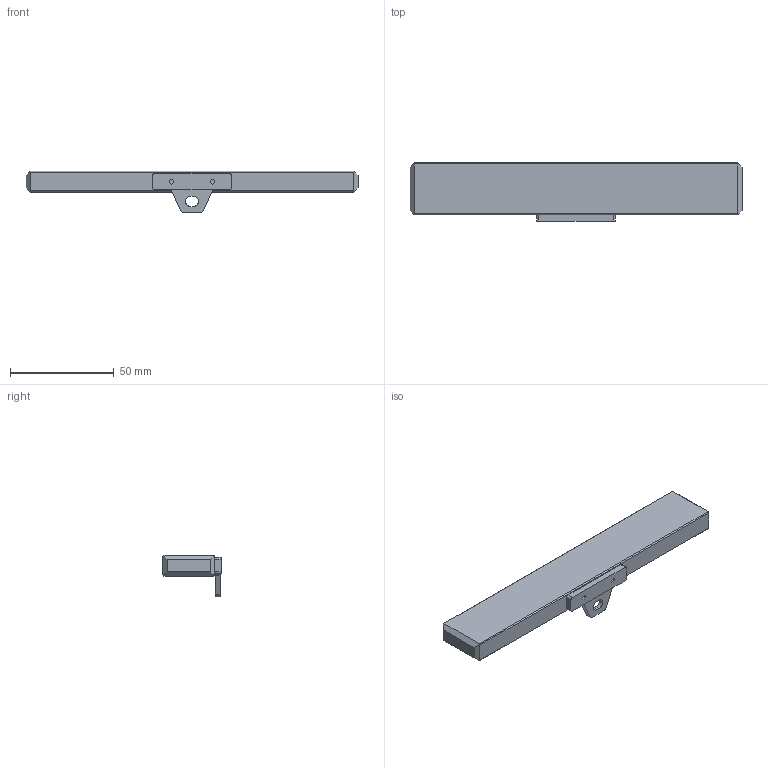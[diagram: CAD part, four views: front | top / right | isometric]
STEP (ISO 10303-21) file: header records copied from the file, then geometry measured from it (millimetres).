
FILE_DESCRIPTION((''),'2;1');
FILE_NAME('FG_VC_BASIC_C0035NP001','2026-02-23T17:22:00',('Admin'),(''),'CREO PARAMETRIC BY PTC INC, 2025010','CREO PARAMETRIC BY PTC INC, 2025010','');
FILE_SCHEMA(('CONFIG_CONTROL_DESIGN'));
Length unit declared in the file: millimetre
Products named in the file (1): FG_VC_BASIC_C0035NP001
Bounding box: 160 x 28 x 20 mm (x, y, z)
Volume: 40801.8 mm3; surface area: 12103 mm2
Topology: 1 solids, 5 shells, 78 faces, 196 edges, 126 vertices
Faces by surface type: plane 48, cylinder 22, cone 8
Entity records: 2338 total; most frequent: DIRECTION 396, CARTESIAN_POINT 396, ORIENTED_EDGE 384, EDGE_CURVE 192, VECTOR 144, LINE 144, AXIS2_PLACEMENT_3D 126, VERTEX_POINT 126
